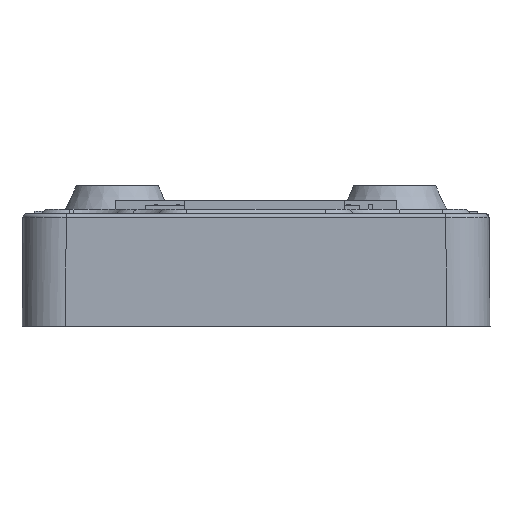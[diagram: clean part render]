
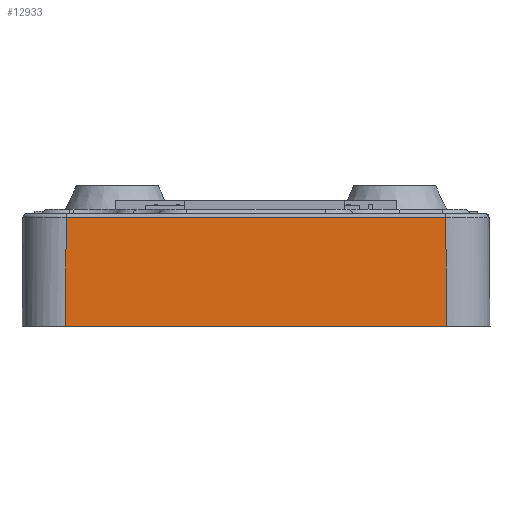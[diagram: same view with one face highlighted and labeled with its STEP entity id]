
A CAD part, front view. The second image highlights one B-rep face of the part: STEP entity #12933.
In plain terms, the highlighted planar face has unit normal (0, -1, 0.009).
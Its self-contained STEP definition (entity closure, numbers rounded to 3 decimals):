
#797=CARTESIAN_POINT('',(22.,-53.,-13.));
#798=VERTEX_POINT('',#797);
#806=CARTESIAN_POINT('',(-22.,-53.,-13.));
#807=VERTEX_POINT('',#806);
#808=CARTESIAN_POINT('',(22.,-53.,-13.));
#809=DIRECTION('',(-1.0,0.0,0.0));
#810=VECTOR('',#809,44.);
#811=LINE('',#808,#810);
#812=EDGE_CURVE('',#798,#807,#811,.T.);
#8315=CARTESIAN_POINT('',(-21.891,-52.891,-0.496));
#8316=VERTEX_POINT('',#8315);
#11193=CARTESIAN_POINT('',(21.891,-52.891,-0.496));
#11194=VERTEX_POINT('',#11193);
#11195=CARTESIAN_POINT('',(21.891,-52.891,-0.496));
#11196=DIRECTION('',(-1.0,0.0,0.0));
#11197=VECTOR('',#11196,43.782);
#11198=LINE('',#11195,#11197);
#11199=EDGE_CURVE('',#11194,#8316,#11198,.T.);
#11216=CARTESIAN_POINT('',(-21.891,-52.891,-0.496));
#11217=DIRECTION('',(-0.009,-0.009,-1.));
#11218=VECTOR('',#11217,12.505);
#11219=LINE('',#11216,#11218);
#11220=EDGE_CURVE('',#8316,#807,#11219,.T.);
#12917=CARTESIAN_POINT('',(-22.264,-52.891,-0.496));
#12918=DIRECTION('',(0.0,-1.,0.009));
#12919=DIRECTION('',(0.0,-0.009,-1.));
#12920=AXIS2_PLACEMENT_3D('',#12917,#12918,#12919);
#12921=PLANE('',#12920);
#12922=ORIENTED_EDGE('',*,*,#812,.F.);
#12923=CARTESIAN_POINT('',(21.891,-52.891,-0.496));
#12924=DIRECTION('',(0.009,-0.009,-1.));
#12925=VECTOR('',#12924,12.505);
#12926=LINE('',#12923,#12925);
#12927=EDGE_CURVE('',#11194,#798,#12926,.T.);
#12928=ORIENTED_EDGE('',*,*,#12927,.F.);
#12929=ORIENTED_EDGE('',*,*,#11199,.T.);
#12930=ORIENTED_EDGE('',*,*,#11220,.T.);
#12931=EDGE_LOOP('',(#12922,#12928,#12929,#12930));
#12932=FACE_OUTER_BOUND('',#12931,.T.);
#12933=ADVANCED_FACE('',(#12932),#12921,.T.);
